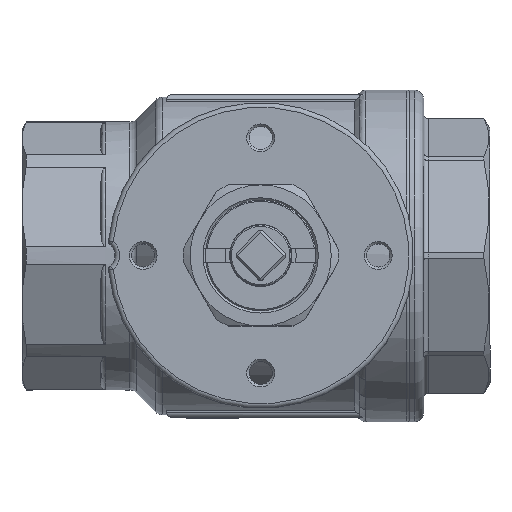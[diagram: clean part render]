
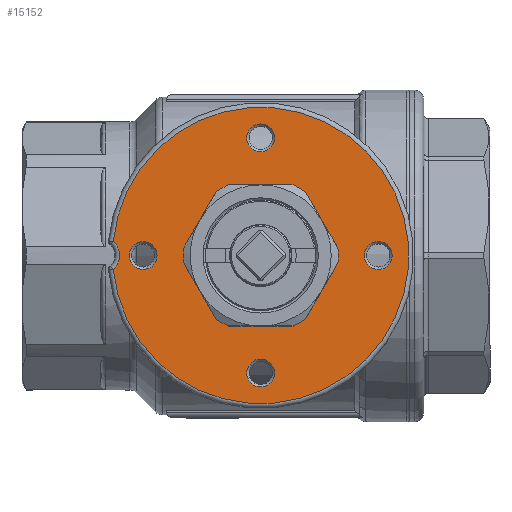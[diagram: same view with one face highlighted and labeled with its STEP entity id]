
A CAD part, top view. The second image highlights one B-rep face of the part: STEP entity #15152.
In plain terms, the highlighted planar face has unit normal (0, 0, 1) as drawn and (-1, 0, 0) by its records, which use the part's own axes.
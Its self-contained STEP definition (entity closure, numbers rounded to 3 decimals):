
#15068=CARTESIAN_POINT('',(-12.5,2.959,-25.0));
#15069=VERTEX_POINT('',#15068);
#15070=CARTESIAN_POINT('',(-12.5,0.,-25.0));
#15071=DIRECTION('',(-1.0,0.0,0.0));
#15072=DIRECTION('',(0.0,-1.0,0.0));
#15073=AXIS2_PLACEMENT_3D('',#15070,#15071,#15072);
#15074=CIRCLE('',#15073,2.959);
#15075=EDGE_CURVE('',#15069,#15069,#15074,.T.);
#15080=CARTESIAN_POINT('',(-12.5,16.25,0.0));
#15081=DIRECTION('',(-1.0,0.0,0.0));
#15082=DIRECTION('',(0.0,0.0,1.0));
#15083=AXIS2_PLACEMENT_3D('',#15080,#15081,#15082);
#15084=PLANE('',#15083);
#15085=CARTESIAN_POINT('',(-12.5,3.002,31.357));
#15086=VERTEX_POINT('',#15085);
#15087=CARTESIAN_POINT('',(-12.5,-3.002,31.357));
#15088=VERTEX_POINT('',#15087);
#15089=CARTESIAN_POINT('',(-12.5,0.,34.0));
#15090=DIRECTION('',(-1.0,0.0,0.0));
#15091=DIRECTION('',(0.0,0.0,-1.0));
#15092=AXIS2_PLACEMENT_3D('',#15089,#15090,#15091);
#15093=CIRCLE('',#15092,4.0);
#15094=EDGE_CURVE('',#15086,#15088,#15093,.T.);
#15095=ORIENTED_EDGE('',*,*,#15094,.F.);
#15096=CARTESIAN_POINT('',(-12.5,0.,0.0));
#15097=DIRECTION('',(1.0,0.0,0.0));
#15098=DIRECTION('',(0.0,-1.0,0.0));
#15099=AXIS2_PLACEMENT_3D('',#15096,#15097,#15098);
#15100=CIRCLE('',#15099,31.5);
#15101=EDGE_CURVE('',#15088,#15086,#15100,.T.);
#15102=ORIENTED_EDGE('',*,*,#15101,.F.);
#15103=EDGE_LOOP('',(#15095,#15102));
#15104=FACE_OUTER_BOUND('',#15103,.T.);
#15105=CARTESIAN_POINT('',(-12.5,27.958,0.));
#15106=VERTEX_POINT('',#15105);
#15107=CARTESIAN_POINT('',(-12.5,25.0,0.0));
#15108=DIRECTION('',(-1.0,0.0,0.0));
#15109=DIRECTION('',(0.0,-1.0,0.0));
#15110=AXIS2_PLACEMENT_3D('',#15107,#15108,#15109);
#15111=CIRCLE('',#15110,2.958);
#15112=EDGE_CURVE('',#15106,#15106,#15111,.T.);
#15113=ORIENTED_EDGE('',*,*,#15112,.F.);
#15114=EDGE_LOOP('',(#15113));
#15115=FACE_BOUND('',#15114,.T.);
#15116=CARTESIAN_POINT('',(-12.5,2.959,25.0));
#15117=VERTEX_POINT('',#15116);
#15118=CARTESIAN_POINT('',(-12.5,0.,25.0));
#15119=DIRECTION('',(-1.0,0.0,0.0));
#15120=DIRECTION('',(0.0,-1.0,0.0));
#15121=AXIS2_PLACEMENT_3D('',#15118,#15119,#15120);
#15122=CIRCLE('',#15121,2.959);
#15123=EDGE_CURVE('',#15117,#15117,#15122,.T.);
#15124=ORIENTED_EDGE('',*,*,#15123,.F.);
#15125=EDGE_LOOP('',(#15124));
#15126=FACE_BOUND('',#15125,.T.);
#15127=CARTESIAN_POINT('',(-12.5,-12.5,0.));
#15128=VERTEX_POINT('',#15127);
#15129=CARTESIAN_POINT('',(-12.5,0.,0.0));
#15130=DIRECTION('',(1.0,0.0,0.0));
#15131=DIRECTION('',(0.0,1.0,0.0));
#15132=AXIS2_PLACEMENT_3D('',#15129,#15130,#15131);
#15133=CIRCLE('',#15132,12.5);
#15134=EDGE_CURVE('',#15128,#15128,#15133,.T.);
#15135=ORIENTED_EDGE('',*,*,#15134,.T.);
#15136=EDGE_LOOP('',(#15135));
#15137=FACE_BOUND('',#15136,.T.);
#15138=CARTESIAN_POINT('',(-12.5,-22.042,0.));
#15139=VERTEX_POINT('',#15138);
#15140=CARTESIAN_POINT('',(-12.5,-25.0,0.0));
#15141=DIRECTION('',(-1.0,0.0,0.0));
#15142=DIRECTION('',(0.0,-1.0,0.0));
#15143=AXIS2_PLACEMENT_3D('',#15140,#15141,#15142);
#15144=CIRCLE('',#15143,2.958);
#15145=EDGE_CURVE('',#15139,#15139,#15144,.T.);
#15146=ORIENTED_EDGE('',*,*,#15145,.F.);
#15147=EDGE_LOOP('',(#15146));
#15148=FACE_BOUND('',#15147,.T.);
#15149=ORIENTED_EDGE('',*,*,#15075,.F.);
#15150=EDGE_LOOP('',(#15149));
#15151=FACE_BOUND('',#15150,.T.);
#15152=ADVANCED_FACE('',(#15104,#15115,#15126,#15137,#15148,#15151),#15084,.T.);
